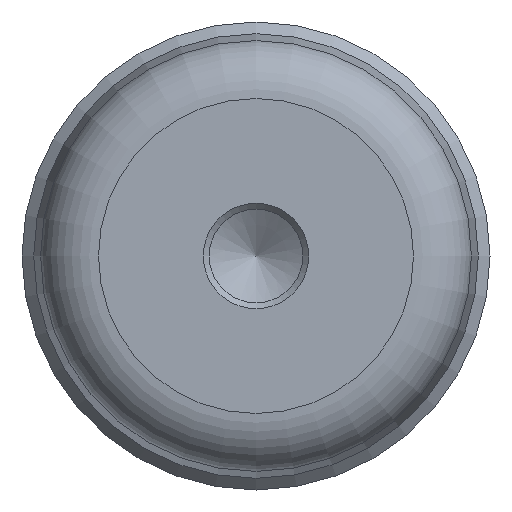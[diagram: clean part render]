
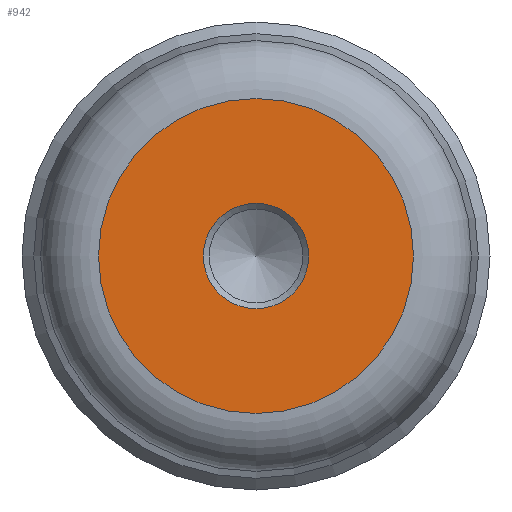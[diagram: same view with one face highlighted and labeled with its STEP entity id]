
A CAD part, left-side view. The second image highlights one B-rep face of the part: STEP entity #942.
In plain terms, the highlighted planar face has unit normal (-1, 0, 0).
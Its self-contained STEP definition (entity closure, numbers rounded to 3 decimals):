
#28=FACE_BOUND('',#149,.T.);
#35=PLANE('',#1035);
#87=FACE_OUTER_BOUND('',#148,.T.);
#148=EDGE_LOOP('',(#620));
#149=EDGE_LOOP('',(#621));
#319=CIRCLE('',#1027,4.5);
#324=CIRCLE('',#1034,13.459);
#387=VERTEX_POINT('',#1474);
#391=VERTEX_POINT('',#1486);
#470=EDGE_CURVE('',#387,#387,#319,.T.);
#477=EDGE_CURVE('',#391,#391,#324,.T.);
#620=ORIENTED_EDGE('',*,*,#477,.F.);
#621=ORIENTED_EDGE('',*,*,#470,.T.);
#942=ADVANCED_FACE('',(#87,#28),#35,.T.);
#1027=AXIS2_PLACEMENT_3D('',#1475,#1169,#1170);
#1034=AXIS2_PLACEMENT_3D('',#1488,#1185,#1186);
#1035=AXIS2_PLACEMENT_3D('',#1489,#1187,#1188);
#1169=DIRECTION('center_axis',(1.,0.,0.));
#1170=DIRECTION('ref_axis',(0.,0.,1.));
#1185=DIRECTION('center_axis',(1.,0.,0.));
#1186=DIRECTION('ref_axis',(0.,-1.,0.));
#1187=DIRECTION('center_axis',(-1.,0.,0.));
#1188=DIRECTION('ref_axis',(0.,0.,1.));
#1474=CARTESIAN_POINT('',(0.,0.,-4.5));
#1475=CARTESIAN_POINT('Origin',(0.,0.,0.));
#1486=CARTESIAN_POINT('',(0.,0.,13.459));
#1488=CARTESIAN_POINT('Origin',(0.,0.,0.));
#1489=CARTESIAN_POINT('Origin',(0.,17.805,0.));
